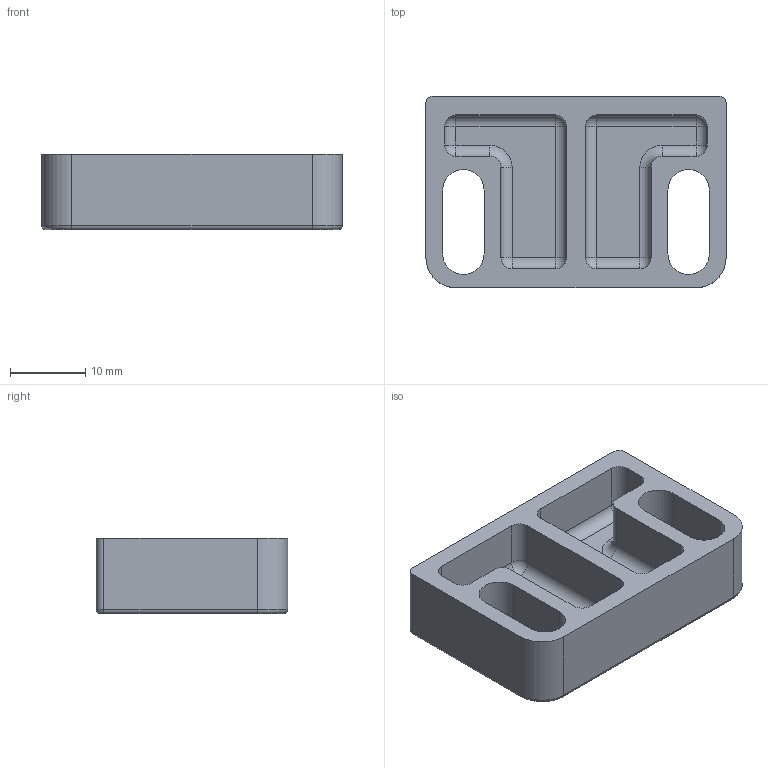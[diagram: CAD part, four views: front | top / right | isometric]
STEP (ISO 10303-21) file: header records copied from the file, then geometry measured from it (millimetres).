
FILE_DESCRIPTION (( 'STEP AP214' ), '1' );
FILE_NAME ('04870000002B.STEP', '2014-03-26T12:13:07', ( 'PC01TECNICO' ), ( 'Valbia' ), 'SwSTEP 2.0', 'SolidWorks 2010', '' );
FILE_SCHEMA (( 'AUTOMOTIVE_DESIGN' ));
Length unit declared in the file: millimetre
Products named in the file (1): 04870000002B
Bounding box: 40 x 25.5 x 10 mm (x, y, z)
Volume: 5494.9 mm3; surface area: 4621.6 mm2
Topology: 1 solids, 1 shells, 76 faces, 184 edges, 102 vertices
Faces by surface type: cylinder 36, plane 24, sphere 10, torus 6
Entity records: 2162 total; most frequent: DIRECTION 406, CARTESIAN_POINT 353, ORIENTED_EDGE 348, EDGE_CURVE 174, AXIS2_PLACEMENT_3D 155, VERTEX_POINT 102, VECTOR 96, LINE 96
